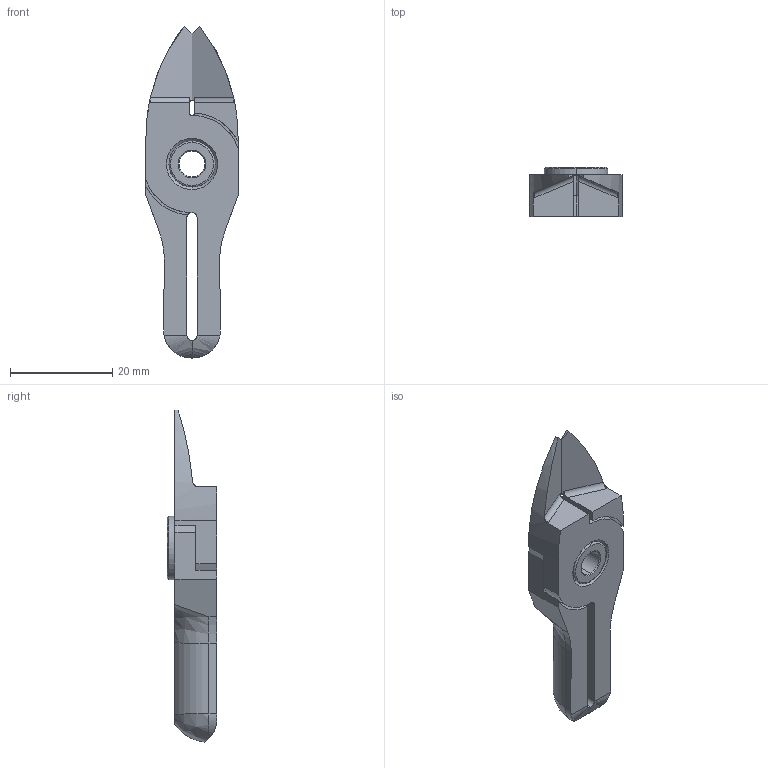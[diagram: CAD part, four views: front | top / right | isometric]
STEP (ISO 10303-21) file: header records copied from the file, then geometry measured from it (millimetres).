
FILE_DESCRIPTION (( 'STEP AP214' ), '1' );
FILE_NAME ('NY15AJT.STEP', '2019-11-28T03:45:45', ( '微软用户' ), ( '微软中国' ), 'SwSTEP 2.0', 'SolidWorks 2016', '' );
FILE_SCHEMA (( 'AUTOMOTIVE_DESIGN' ));
Length unit declared in the file: millimetre
Products named in the file (4): BR2; BR1; BS; NY15AJT
Assembly tree (3 placements, depth 2):
  NY15AJT
    BS
    BR1
    BR2
Bounding box: 18 x 9.7 x 64.94 mm (x, y, z)
Volume: 4908.4 mm3; surface area: 4590.7 mm2
Topology: 3 solids, 3 shells, 116 faces, 313 edges, 204 vertices
Faces by surface type: cylinder 38, plane 33, cone 22, bspline 19, torus 4
Entity records: 4574 total; most frequent: CARTESIAN_POINT 1741, ORIENTED_EDGE 618, DIRECTION 486, EDGE_CURVE 309, VERTEX_POINT 204, AXIS2_PLACEMENT_3D 179, VECTOR 128, LINE 128
